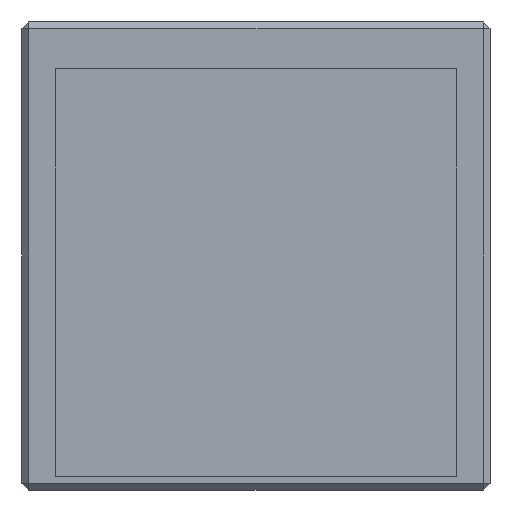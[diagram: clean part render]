
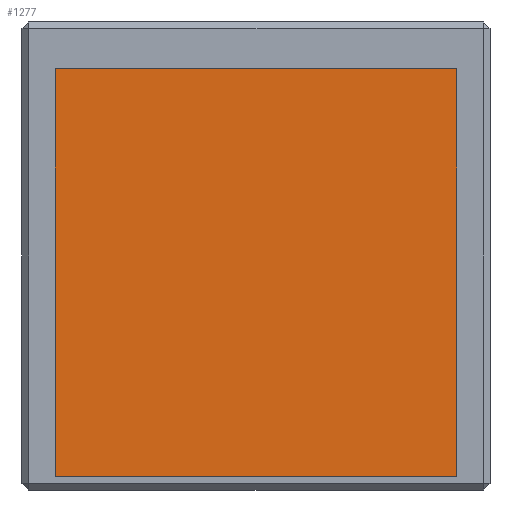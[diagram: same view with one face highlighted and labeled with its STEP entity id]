
A CAD part, left-side view. The second image highlights one B-rep face of the part: STEP entity #1277.
In plain terms, the highlighted planar face has unit normal (-1, 0, 0).
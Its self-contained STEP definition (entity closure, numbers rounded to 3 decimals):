
#62 = LINE ( 'NONE', #86, #636 ) ;
#67 = EDGE_CURVE ( 'NONE', #195, #245, #1256, .T. ) ;
#86 = CARTESIAN_POINT ( 'NONE',  ( -43., 30., 2. ) ) ;
#160 = CARTESIAN_POINT ( 'NONE',  ( -43., -30., 2. ) ) ;
#181 = CARTESIAN_POINT ( 'NONE',  ( -43., 30., 2. ) ) ;
#183 = PLANE ( 'NONE',  #1002 ) ;
#195 = VERTEX_POINT ( 'NONE', #160 ) ;
#206 = DIRECTION ( 'NONE',  ( 0., -1., 0. ) ) ;
#220 = LINE ( 'NONE', #181, #366 ) ;
#245 = VERTEX_POINT ( 'NONE', #940 ) ;
#331 = VECTOR ( 'NONE', #868, 1000. ) ;
#366 = VECTOR ( 'NONE', #793, 1000. ) ;
#391 = ORIENTED_EDGE ( 'NONE', *, *, #981, .T. ) ;
#430 = ORIENTED_EDGE ( 'NONE', *, *, #67, .T. ) ;
#458 = VERTEX_POINT ( 'NONE', #986 ) ;
#534 = EDGE_CURVE ( 'NONE', #245, #458, #1173, .T. ) ;
#549 = DIRECTION ( 'NONE',  ( -1., 0., 0. ) ) ;
#629 = DIRECTION ( 'NONE',  ( 0., -1., 0. ) ) ;
#636 = VECTOR ( 'NONE', #629, 1000. ) ;
#696 = EDGE_CURVE ( 'NONE', #458, #948, #220, .T. ) ;
#728 = VECTOR ( 'NONE', #1001, 1000. ) ;
#759 = ORIENTED_EDGE ( 'NONE', *, *, #696, .T. ) ;
#793 = DIRECTION ( 'NONE',  ( 0., 0., -1. ) ) ;
#868 = DIRECTION ( 'NONE',  ( 0., 1., 0. ) ) ;
#884 = CARTESIAN_POINT ( 'NONE',  ( -43., 30., 63. ) ) ;
#940 = CARTESIAN_POINT ( 'NONE',  ( -43., -30., 63. ) ) ;
#942 = CARTESIAN_POINT ( 'NONE',  ( -43., 30., 2. ) ) ;
#948 = VERTEX_POINT ( 'NONE', #942 ) ;
#981 = EDGE_CURVE ( 'NONE', #948, #195, #62, .T. ) ;
#986 = CARTESIAN_POINT ( 'NONE',  ( -43., 30., 63. ) ) ;
#1001 = DIRECTION ( 'NONE',  ( 0., 0., 1. ) ) ;
#1002 = AXIS2_PLACEMENT_3D ( 'NONE', #1050, #549, #206 ) ;
#1050 = CARTESIAN_POINT ( 'NONE',  ( -43., 0., 0. ) ) ;
#1110 = FACE_OUTER_BOUND ( 'NONE', #1279, .T. ) ;
#1173 = LINE ( 'NONE', #884, #331 ) ;
#1256 = LINE ( 'NONE', #1497, #728 ) ;
#1277 = ADVANCED_FACE ( 'NONE', ( #1110 ), #183, .T. ) ;
#1279 = EDGE_LOOP ( 'NONE', ( #391, #430, #1353, #759 ) ) ;
#1353 = ORIENTED_EDGE ( 'NONE', *, *, #534, .T. ) ;
#1497 = CARTESIAN_POINT ( 'NONE',  ( -43., -30., 2. ) ) ;
